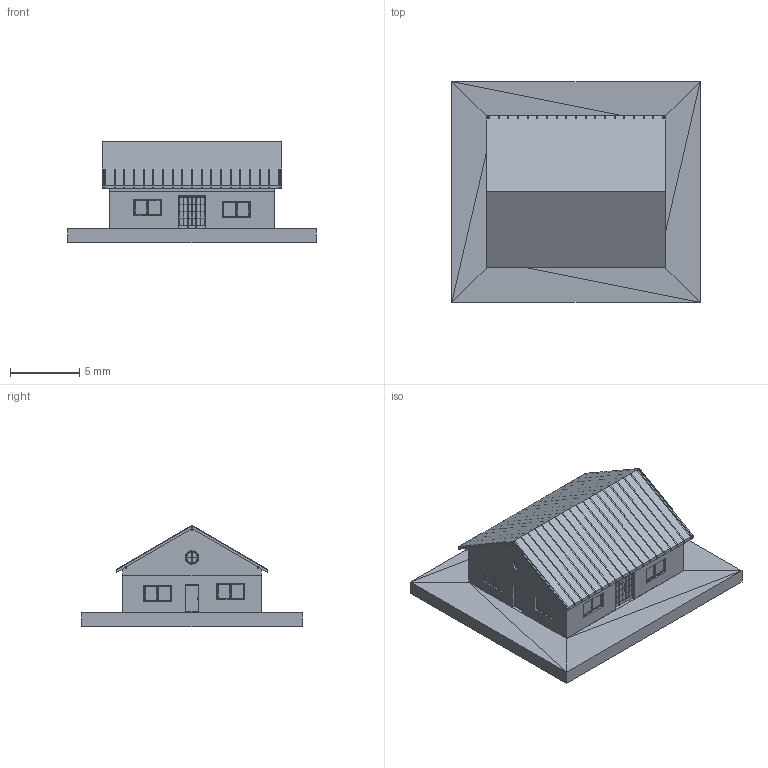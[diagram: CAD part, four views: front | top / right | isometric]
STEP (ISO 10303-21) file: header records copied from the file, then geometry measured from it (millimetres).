
FILE_DESCRIPTION(/* description */ (''),/* implementation_level */ '2;1');
FILE_NAME(/* name */ 'AC11-FZK-Haus-khh-Rhino-Export',/* time_stamp */ '2008-04-22T09:35:03+02:00',/* author */ (''),/* organization */ (''),/* preprocessor_version */ 'ST-DEVELOPER v10',/* originating_system */ '',/* authorisation */ '');
FILE_SCHEMA (('AUTOMOTIVE_DESIGN_CC2'));
Products named in the file (1): 1
Bounding box: 18 x 16 x 7.32 mm (x, y, z)
Volume: 307 mm3; surface area: 2092.8 mm2
Topology: 259 solids, 259 shells, 5748 faces, 15522 edges, 10292 vertices
Faces by surface type: bspline 5748
Entity records: 162603 total; most frequent: CARTESIAN_POINT 64329, ORIENTED_EDGE 31044, EDGE_CURVE 15522, B_SPLINE_CURVE_WITH_KNOTS 15522, VERTEX_POINT 10292, EDGE_LOOP 5894, ADVANCED_FACE 5748, FACE_OUTER_BOUND 5748
